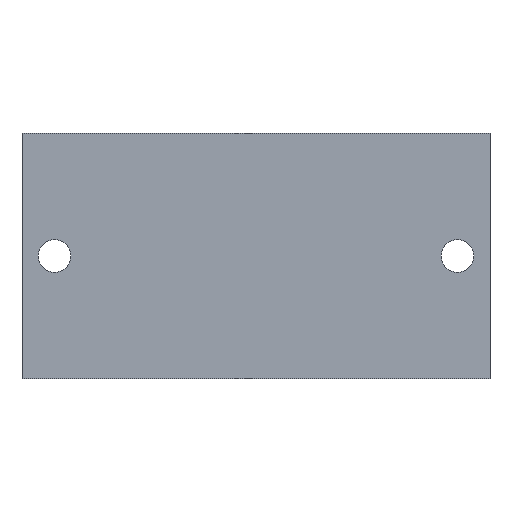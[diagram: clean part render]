
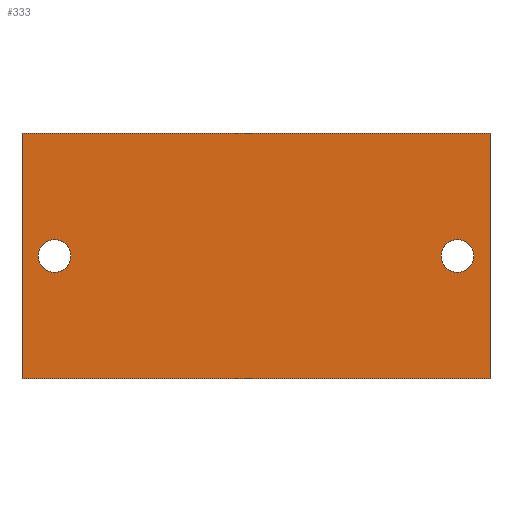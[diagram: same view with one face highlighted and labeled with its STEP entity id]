
A CAD part, front view. The second image highlights one B-rep face of the part: STEP entity #333.
In plain terms, the highlighted planar face has unit normal (0, -1, 0).
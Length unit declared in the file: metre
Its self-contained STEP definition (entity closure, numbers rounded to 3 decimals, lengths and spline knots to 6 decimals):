
#26=LINE('',#510,#56);
#27=LINE('',#513,#57);
#28=LINE('',#515,#58);
#29=LINE('',#517,#59);
#56=VECTOR('',#413,1.);
#57=VECTOR('',#414,1.);
#58=VECTOR('',#415,1.);
#59=VECTOR('',#416,1.);
#88=ORIENTED_EDGE('',*,*,#172,.T.);
#89=ORIENTED_EDGE('',*,*,#173,.T.);
#90=ORIENTED_EDGE('',*,*,#174,.T.);
#91=ORIENTED_EDGE('',*,*,#175,.F.);
#92=ORIENTED_EDGE('',*,*,#176,.F.);
#93=ORIENTED_EDGE('',*,*,#177,.F.);
#172=EDGE_CURVE('',#214,#214,#238,.T.);
#173=EDGE_CURVE('',#215,#216,#26,.T.);
#174=EDGE_CURVE('',#216,#217,#27,.T.);
#175=EDGE_CURVE('',#218,#217,#28,.T.);
#176=EDGE_CURVE('',#215,#218,#29,.T.);
#177=EDGE_CURVE('',#219,#219,#239,.T.);
#214=VERTEX_POINT('',#509);
#215=VERTEX_POINT('',#511);
#216=VERTEX_POINT('',#512);
#217=VERTEX_POINT('',#514);
#218=VERTEX_POINT('',#516);
#219=VERTEX_POINT('',#519);
#238=CIRCLE('',#367,0.002);
#239=CIRCLE('',#368,0.002);
#251=EDGE_LOOP('',(#88));
#252=EDGE_LOOP('',(#89,#90,#91,#92));
#253=EDGE_LOOP('',(#93));
#287=FACE_BOUND('',#251,.T.);
#288=FACE_BOUND('',#252,.T.);
#289=FACE_BOUND('',#253,.T.);
#321=PLANE('',#366);
#333=ADVANCED_FACE('',(#287,#288,#289),#321,.T.);
#366=AXIS2_PLACEMENT_3D('',#507,#409,#410);
#367=AXIS2_PLACEMENT_3D('',#508,#411,#412);
#368=AXIS2_PLACEMENT_3D('',#518,#417,#418);
#409=DIRECTION('',(0.,-1.,0.));
#410=DIRECTION('',(0.,0.,-1.));
#411=DIRECTION('',(0.,1.,0.));
#412=DIRECTION('',(0.,0.,-1.));
#413=DIRECTION('',(0.,0.,-1.));
#414=DIRECTION('',(1.,0.,0.));
#415=DIRECTION('',(0.,0.,-1.));
#416=DIRECTION('',(1.,0.,0.));
#417=DIRECTION('',(0.,-1.,0.));
#418=DIRECTION('',(0.,0.,-1.));
#507=CARTESIAN_POINT('',(-0.00001,0.,0.03021));
#508=CARTESIAN_POINT('',(0.0535,0.,0.0151));
#509=CARTESIAN_POINT('',(0.0535,0.,0.0131));
#510=CARTESIAN_POINT('',(0.,0.,0.0151));
#511=CARTESIAN_POINT('',(0.,0.,0.0302));
#512=CARTESIAN_POINT('',(0.,0.,0.));
#513=CARTESIAN_POINT('',(0.02875,0.,0.));
#514=CARTESIAN_POINT('',(0.0575,0.,0.));
#515=CARTESIAN_POINT('',(0.0575,0.,0.0151));
#516=CARTESIAN_POINT('',(0.0575,0.,0.0302));
#517=CARTESIAN_POINT('',(0.02875,0.,0.0302));
#518=CARTESIAN_POINT('',(0.004,0.,0.0151));
#519=CARTESIAN_POINT('',(0.004,0.,0.0131));
